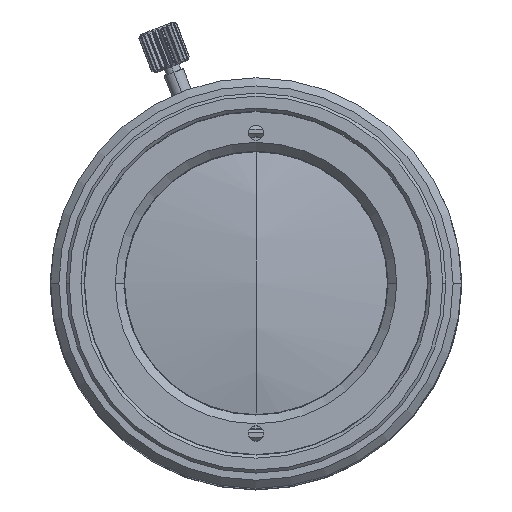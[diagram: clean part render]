
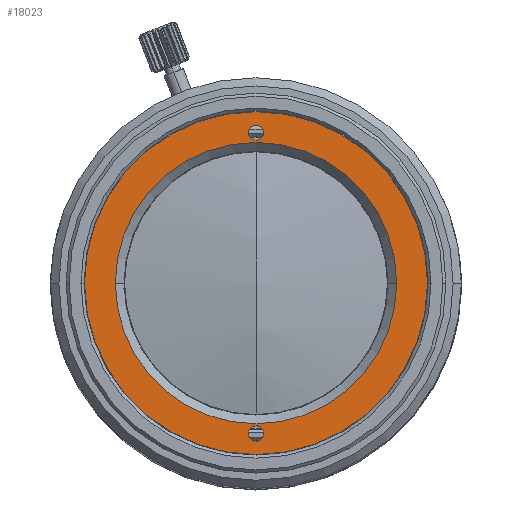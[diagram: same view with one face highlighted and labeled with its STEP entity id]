
A CAD part, top view. The second image highlights one B-rep face of the part: STEP entity #18023.
In plain terms, the highlighted planar face has unit normal (0, 0, 1).
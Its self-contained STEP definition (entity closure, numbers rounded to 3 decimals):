
#399 = DIRECTION ( 'NONE',  ( 0., 0., 1. ) ) ;
#853 = AXIS2_PLACEMENT_3D ( 'NONE', #6859, #2628, #1237 ) ;
#920 = CARTESIAN_POINT ( 'NONE',  ( 0.75, 14.65, 59.25 ) ) ;
#1237 = DIRECTION ( 'NONE',  ( -1., 0., 0. ) ) ;
#1404 = FACE_BOUND ( 'NONE', #23127, .T. ) ;
#1514 = ORIENTED_EDGE ( 'NONE', *, *, #20354, .T. ) ;
#1700 = AXIS2_PLACEMENT_3D ( 'NONE', #22819, #20900, #3347 ) ;
#1944 = VERTEX_POINT ( 'NONE', #20631 ) ;
#2095 = EDGE_LOOP ( 'NONE', ( #1514, #9462 ) ) ;
#2300 = EDGE_CURVE ( 'NONE', #18588, #13472, #19357, .T. ) ;
#2507 = CIRCLE ( 'NONE', #15226, 0.75 ) ;
#2628 = DIRECTION ( 'NONE',  ( 0., 0., 1. ) ) ;
#2629 = CARTESIAN_POINT ( 'NONE',  ( 0., -14.65, 59.25 ) ) ;
#2773 = CARTESIAN_POINT ( 'NONE',  ( -16.7, 0., 59.25 ) ) ;
#2810 = DIRECTION ( 'NONE',  ( -1., 0., 0. ) ) ;
#3347 = DIRECTION ( 'NONE',  ( 1., 0., 0. ) ) ;
#3626 = DIRECTION ( 'NONE',  ( 0., 0., 1. ) ) ;
#4060 = AXIS2_PLACEMENT_3D ( 'NONE', #2629, #24317, #12509 ) ;
#4696 = EDGE_LOOP ( 'NONE', ( #16511, #14134 ) ) ;
#4729 = CARTESIAN_POINT ( 'NONE',  ( 0., 13.7, 59.25 ) ) ;
#5096 = CARTESIAN_POINT ( 'NONE',  ( 0., 14.65, 59.25 ) ) ;
#5660 = CARTESIAN_POINT ( 'NONE',  ( 0., 0., 59.25 ) ) ;
#5901 = DIRECTION ( 'NONE',  ( -1., 0., 0. ) ) ;
#6216 = CIRCLE ( 'NONE', #14016, 16.7 ) ;
#6568 = ORIENTED_EDGE ( 'NONE', *, *, #22817, .F. ) ;
#6651 = EDGE_CURVE ( 'NONE', #10450, #18325, #6216, .T. ) ;
#6859 = CARTESIAN_POINT ( 'NONE',  ( 0., 0., 59.25 ) ) ;
#6881 = DIRECTION ( 'NONE',  ( 1., 0., 0. ) ) ;
#7201 = CARTESIAN_POINT ( 'NONE',  ( -13.7, 0., 59.25 ) ) ;
#7820 = EDGE_CURVE ( 'NONE', #20182, #15151, #11131, .T. ) ;
#8308 = AXIS2_PLACEMENT_3D ( 'NONE', #17133, #16634, #6881 ) ;
#8405 = CARTESIAN_POINT ( 'NONE',  ( -0.75, 14.65, 59.25 ) ) ;
#8429 = ORIENTED_EDGE ( 'NONE', *, *, #21542, .F. ) ;
#9363 = EDGE_CURVE ( 'NONE', #15151, #20182, #2507, .T. ) ;
#9462 = ORIENTED_EDGE ( 'NONE', *, *, #6651, .T. ) ;
#9773 = CARTESIAN_POINT ( 'NONE',  ( 0., 0., 59.25 ) ) ;
#9892 = VERTEX_POINT ( 'NONE', #17992 ) ;
#10450 = VERTEX_POINT ( 'NONE', #24067 ) ;
#11131 = CIRCLE ( 'NONE', #1700, 0.75 ) ;
#11147 = FACE_BOUND ( 'NONE', #4696, .T. ) ;
#12399 = EDGE_LOOP ( 'NONE', ( #8429, #19205 ) ) ;
#12509 = DIRECTION ( 'NONE',  ( -1., 0., 0. ) ) ;
#12558 = DIRECTION ( 'NONE',  ( 0., 0., -1. ) ) ;
#12664 = CIRCLE ( 'NONE', #4060, 0.75 ) ;
#13188 = DIRECTION ( 'NONE',  ( 0., 0., 1. ) ) ;
#13472 = VERTEX_POINT ( 'NONE', #22063 ) ;
#14016 = AXIS2_PLACEMENT_3D ( 'NONE', #9773, #399, #5901 ) ;
#14134 = ORIENTED_EDGE ( 'NONE', *, *, #7820, .F. ) ;
#14374 = CIRCLE ( 'NONE', #853, 16.7 ) ;
#14988 = FACE_OUTER_BOUND ( 'NONE', #2095, .T. ) ;
#15151 = VERTEX_POINT ( 'NONE', #920 ) ;
#15226 = AXIS2_PLACEMENT_3D ( 'NONE', #5096, #13188, #21000 ) ;
#16443 = AXIS2_PLACEMENT_3D ( 'NONE', #5660, #3626, #17335 ) ;
#16511 = ORIENTED_EDGE ( 'NONE', *, *, #9363, .F. ) ;
#16634 = DIRECTION ( 'NONE',  ( 0., 0., 1. ) ) ;
#17133 = CARTESIAN_POINT ( 'NONE',  ( 0., 0., 59.25 ) ) ;
#17335 = DIRECTION ( 'NONE',  ( 1., 0., 0. ) ) ;
#17544 = CIRCLE ( 'NONE', #20826, 0.75 ) ;
#17915 = AXIS2_PLACEMENT_3D ( 'NONE', #4729, #12558, #2810 ) ;
#17992 = CARTESIAN_POINT ( 'NONE',  ( -0.75, -14.65, 59.25 ) ) ;
#18023 = ADVANCED_FACE ( 'NONE', ( #14988, #11147, #18961, #1404 ), #24872, .F. ) ;
#18160 = DIRECTION ( 'NONE',  ( 0., 0., 1. ) ) ;
#18325 = VERTEX_POINT ( 'NONE', #2773 ) ;
#18555 = CARTESIAN_POINT ( 'NONE',  ( 0., -14.65, 59.25 ) ) ;
#18588 = VERTEX_POINT ( 'NONE', #7201 ) ;
#18961 = FACE_BOUND ( 'NONE', #12399, .T. ) ;
#19205 = ORIENTED_EDGE ( 'NONE', *, *, #2300, .F. ) ;
#19357 = CIRCLE ( 'NONE', #8308, 13.7 ) ;
#19378 = ORIENTED_EDGE ( 'NONE', *, *, #23439, .F. ) ;
#19942 = DIRECTION ( 'NONE',  ( -1., 0., 0. ) ) ;
#20182 = VERTEX_POINT ( 'NONE', #8405 ) ;
#20354 = EDGE_CURVE ( 'NONE', #18325, #10450, #14374, .T. ) ;
#20631 = CARTESIAN_POINT ( 'NONE',  ( 0.75, -14.65, 59.25 ) ) ;
#20826 = AXIS2_PLACEMENT_3D ( 'NONE', #18555, #18160, #19942 ) ;
#20900 = DIRECTION ( 'NONE',  ( 0., 0., 1. ) ) ;
#21000 = DIRECTION ( 'NONE',  ( 1., 0., 0. ) ) ;
#21542 = EDGE_CURVE ( 'NONE', #13472, #18588, #22976, .T. ) ;
#22063 = CARTESIAN_POINT ( 'NONE',  ( 13.7, 0., 59.25 ) ) ;
#22817 = EDGE_CURVE ( 'NONE', #1944, #9892, #17544, .T. ) ;
#22819 = CARTESIAN_POINT ( 'NONE',  ( 0., 14.65, 59.25 ) ) ;
#22976 = CIRCLE ( 'NONE', #16443, 13.7 ) ;
#23127 = EDGE_LOOP ( 'NONE', ( #19378, #6568 ) ) ;
#23439 = EDGE_CURVE ( 'NONE', #9892, #1944, #12664, .T. ) ;
#24067 = CARTESIAN_POINT ( 'NONE',  ( 16.7, 0., 59.25 ) ) ;
#24317 = DIRECTION ( 'NONE',  ( 0., 0., 1. ) ) ;
#24872 = PLANE ( 'NONE',  #17915 ) ;
